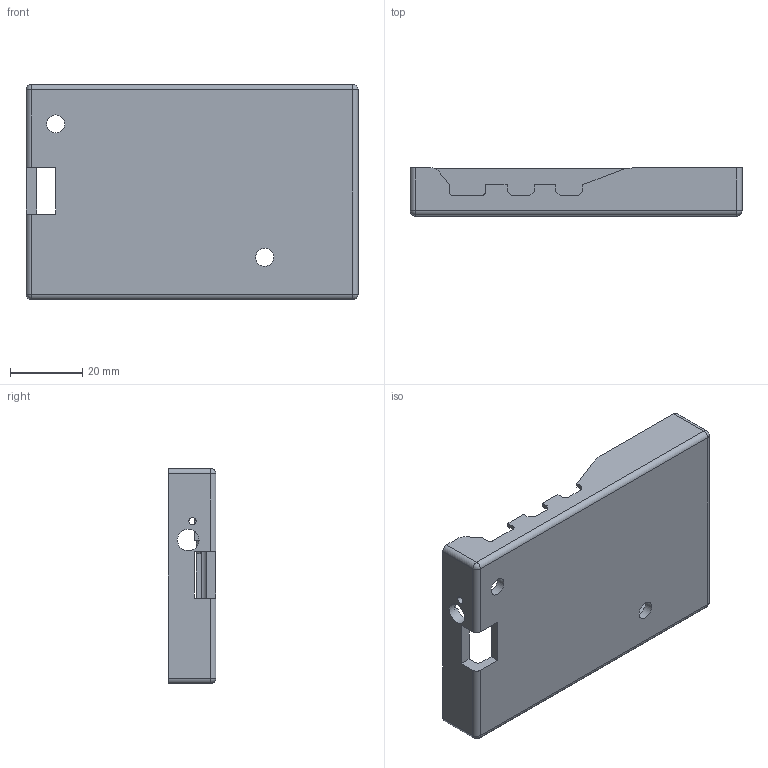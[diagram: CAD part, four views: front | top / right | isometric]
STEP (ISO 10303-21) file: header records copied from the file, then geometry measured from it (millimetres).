
FILE_DESCRIPTION(/* description */ (''),/* implementation_level */ '2;1');
FILE_NAME(/* name */ 'Bottom.step',/* time_stamp */ '2023-10-05T12:51:21-04:00',/* author */ (''),/* organization */ (''),/* preprocessor_version */ 'ST-DEVELOPER v20',/* originating_system */ 'Autodesk Translation Framework v12.14.0.127',/* authorisation */ '');
FILE_SCHEMA (('AUTOMOTIVE_DESIGN { 1 0 10303 214 3 1 1 }'));
Length unit declared in the file: millimetre
Products named in the file (2): PiWu; V2
Assembly tree (1 placements, depth 2):
  PiWu
    V2
Bounding box: 92.1 x 13.28 x 59.65 mm (x, y, z)
Volume: 18202.1 mm3; surface area: 16533.9 mm2
Topology: 1 solids, 1 shells, 129 faces, 333 edges, 213 vertices
Faces by surface type: plane 87, cylinder 34, sphere 8
Full cylindrical faces by diameter (mm): 2 x1, 2.3 x4, 4 x4, 5 x2, 6 x1
Entity records: 3945 total; most frequent: CARTESIAN_POINT 678, DIRECTION 669, ORIENTED_EDGE 666, EDGE_CURVE 333, LINE 261, VECTOR 261, VERTEX_POINT 213, AXIS2_PLACEMENT_3D 204
